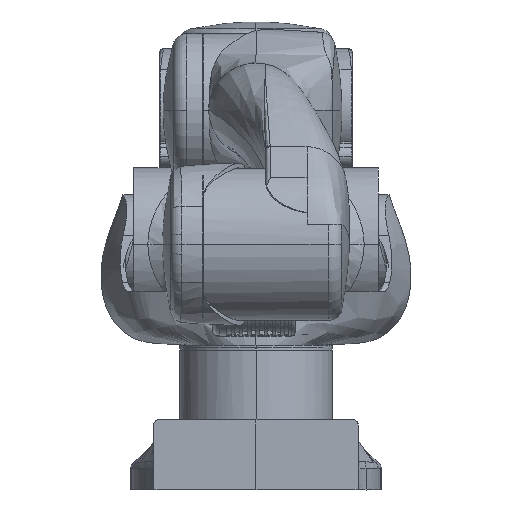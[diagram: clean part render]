
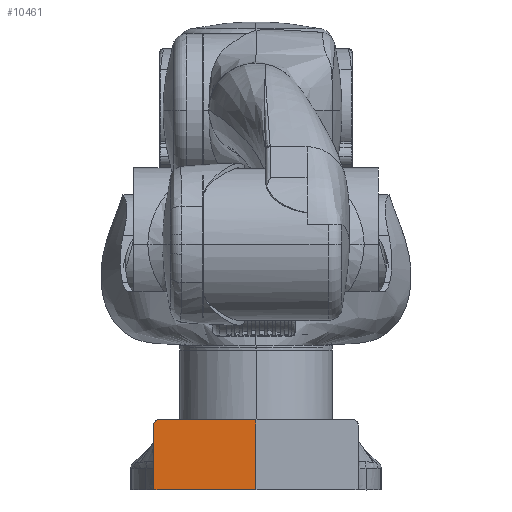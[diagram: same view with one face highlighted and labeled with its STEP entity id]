
A CAD part, left-side view. The second image highlights one B-rep face of the part: STEP entity #10461.
In plain terms, the highlighted free-form (B-spline) face has degree [1, 1] with [3, 4] control points.
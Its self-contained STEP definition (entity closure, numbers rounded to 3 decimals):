
#287 = CARTESIAN_POINT ( 'NONE',  ( -55., 41.794, 29.787 ) ) ;
#7685 = B_SPLINE_CURVE_WITH_KNOTS ( 'NONE', 1,
 ( #117737, #33062 ),
 .UNSPECIFIED., .F., .F.,
 ( 2, 2 ),
 ( 0., 1. ),
 .UNSPECIFIED. ) ;
#8835 = CARTESIAN_POINT ( 'NONE',  ( -55., 41.551, 28.001 ) ) ;
#10461 = ADVANCED_FACE ( 'NONE', ( #108372 ), #18112, .T. ) ;
#13813 = CARTESIAN_POINT ( 'NONE',  ( -55., 41.551, 0. ) ) ;
#18112 = B_SPLINE_SURFACE_WITH_KNOTS ( 'NONE', 1, 1, ( 
 ( #162037, #33234, #139497, #137678 ),
 ( #50308, #200763, #8835, #30497 ),
 ( #180947, #52146, #202592, #73768 ) ),
 .UNSPECIFIED., .F., .F., .F.,
 ( 2, 1, 2 ),
 ( 2, 1, 1, 2 ),
 ( -0.065, 0.006, 1. ),
 ( -0.052, -0.042, 0.006, 1. ),
 .UNSPECIFIED. ) ;
#21948 = CARTESIAN_POINT ( 'NONE',  ( -55., 41.54, 29.877 ) ) ;
#22526 = B_SPLINE_CURVE_WITH_KNOTS ( 'NONE', 3,
 ( #216592, #238248, #149816, #21948, #129143, #287, #150742, #109386, #172396, #259914, #108458, #194038, #130988, #130071, #131917, #90519, #157251, #28439, #24746, #68024, #154479, #242902 ),
 .UNSPECIFIED., .F., .F.,
 ( 4, 1, 1, 1, 1, 2, 2, 2, 1, 1, 1, 1, 2, 2, 4 ),
 ( 0., 0.125, 0.188, 0.219, 0.234, 0.242, 0.25, 0.5, 0.625, 0.688, 0.719, 0.734, 0.742, 0.75, 1. ),
 .UNSPECIFIED. ) ;
#23745 = CARTESIAN_POINT ( 'NONE',  ( -55., 0., 28. ) ) ;
#24746 = CARTESIAN_POINT ( 'NONE',  ( -55., 43.314, 28.253 ) ) ;
#28439 = CARTESIAN_POINT ( 'NONE',  ( -55., 43.31, 28.263 ) ) ;
#29301 = B_SPLINE_CURVE_WITH_KNOTS ( 'NONE', 1,
 ( #216287, #238885 ),
 .UNSPECIFIED., .F., .F.,
 ( 2, 2 ),
 ( 0., 1. ),
 .UNSPECIFIED. ) ;
#30334 = CARTESIAN_POINT ( 'NONE',  ( -55., 43.551, 0. ) ) ;
#30497 = CARTESIAN_POINT ( 'NONE',  ( -55., 0., 28.001 ) ) ;
#33062 = CARTESIAN_POINT ( 'NONE',  ( -55., 0., 30. ) ) ;
#33234 = CARTESIAN_POINT ( 'NONE',  ( -55., 43.551, 30. ) ) ;
#40651 = ORIENTED_EDGE ( 'NONE', *, *, #275492, .T. ) ;
#45635 = EDGE_CURVE ( 'NONE', #271774, #196446, #7685, .T. ) ;
#46808 = CARTESIAN_POINT ( 'NONE',  ( -55., 43.551, 0. ) ) ;
#48117 = CARTESIAN_POINT ( 'NONE',  ( -55., 0., 28. ) ) ;
#50308 = CARTESIAN_POINT ( 'NONE',  ( -55., 43.987, 28.001 ) ) ;
#52146 = CARTESIAN_POINT ( 'NONE',  ( -55., 43.551, 0. ) ) ;
#53899 = EDGE_CURVE ( 'NONE', #178200, #59395, #195576, .T. ) ;
#58237 = B_SPLINE_CURVE_WITH_KNOTS ( 'NONE', 1,
 ( #187126, #188996, #234106 ),
 .UNSPECIFIED., .F., .F.,
 ( 2, 1, 2 ),
 ( 0., 0., 1. ),
 .UNSPECIFIED. ) ;
#59395 = VERTEX_POINT ( 'NONE', #46808 ) ;
#68024 = CARTESIAN_POINT ( 'NONE',  ( -55., 43.472, 27.868 ) ) ;
#73768 = CARTESIAN_POINT ( 'NONE',  ( -55., 0., 0. ) ) ;
#76597 = CARTESIAN_POINT ( 'NONE',  ( -55., 40.551, 30. ) ) ;
#78569 = ORIENTED_EDGE ( 'NONE', *, *, #45635, .F. ) ;
#78926 = VERTEX_POINT ( 'NONE', #23745 ) ;
#82670 = CARTESIAN_POINT ( 'NONE',  ( -55., 0., 0. ) ) ;
#90126 = EDGE_CURVE ( 'NONE', #271774, #178200, #22526, .T. ) ;
#90519 = CARTESIAN_POINT ( 'NONE',  ( -55., 43.288, 28.315 ) ) ;
#95895 = B_SPLINE_CURVE_WITH_KNOTS ( 'NONE', 1,
 ( #126576, #124719 ),
 .UNSPECIFIED., .F., .F.,
 ( 2, 2 ),
 ( 0., 1. ),
 .UNSPECIFIED. ) ;
#103672 = EDGE_CURVE ( 'NONE', #153083, #160669, #29301, .T. ) ;
#108372 = FACE_OUTER_BOUND ( 'NONE', #233570, .T. ) ;
#108458 = CARTESIAN_POINT ( 'NONE',  ( -55., 42.485, 29.402 ) ) ;
#109386 = CARTESIAN_POINT ( 'NONE',  ( -55., 41.851, 29.762 ) ) ;
#116059 = ORIENTED_EDGE ( 'NONE', *, *, #53899, .T. ) ;
#117737 = CARTESIAN_POINT ( 'NONE',  ( -55., 40.551, 30. ) ) ;
#124719 = CARTESIAN_POINT ( 'NONE',  ( -55., 43.551, 0. ) ) ;
#126576 = CARTESIAN_POINT ( 'NONE',  ( -55., 41.551, 0. ) ) ;
#129143 = CARTESIAN_POINT ( 'NONE',  ( -55., 41.711, 29.819 ) ) ;
#130071 = CARTESIAN_POINT ( 'NONE',  ( -55., 43.186, 28.527 ) ) ;
#130988 = CARTESIAN_POINT ( 'NONE',  ( -55., 43.028, 28.796 ) ) ;
#131917 = CARTESIAN_POINT ( 'NONE',  ( -55., 43.255, 28.386 ) ) ;
#137678 = CARTESIAN_POINT ( 'NONE',  ( -55., 0., 30. ) ) ;
#139497 = CARTESIAN_POINT ( 'NONE',  ( -55., 41.551, 30. ) ) ;
#149816 = CARTESIAN_POINT ( 'NONE',  ( -55., 41.171, 29.967 ) ) ;
#150742 = CARTESIAN_POINT ( 'NONE',  ( -55., 41.828, 29.772 ) ) ;
#153083 = VERTEX_POINT ( 'NONE', #13813 ) ;
#154479 = CARTESIAN_POINT ( 'NONE',  ( -55., 43.549, 27.417 ) ) ;
#157251 = CARTESIAN_POINT ( 'NONE',  ( -55., 43.301, 28.283 ) ) ;
#159138 = CARTESIAN_POINT ( 'NONE',  ( -55., 43.551, 26.888 ) ) ;
#160669 = VERTEX_POINT ( 'NONE', #82670 ) ;
#162037 = CARTESIAN_POINT ( 'NONE',  ( -55., 43.987, 30. ) ) ;
#172396 = CARTESIAN_POINT ( 'NONE',  ( -55., 41.864, 29.757 ) ) ;
#178200 = VERTEX_POINT ( 'NONE', #217680 ) ;
#180947 = CARTESIAN_POINT ( 'NONE',  ( -55., 43.987, 0. ) ) ;
#187126 = CARTESIAN_POINT ( 'NONE',  ( -55., 0., 28. ) ) ;
#187410 = CARTESIAN_POINT ( 'NONE',  ( -55., 0., 30. ) ) ;
#187935 = ORIENTED_EDGE ( 'NONE', *, *, #208824, .F. ) ;
#188996 = CARTESIAN_POINT ( 'NONE',  ( -55., 0., 28.001 ) ) ;
#192721 = ORIENTED_EDGE ( 'NONE', *, *, #103672, .T. ) ;
#194038 = CARTESIAN_POINT ( 'NONE',  ( -55., 42.861, 29.007 ) ) ;
#195576 = B_SPLINE_CURVE_WITH_KNOTS ( 'NONE', 1,
 ( #159138, #30334 ),
 .UNSPECIFIED., .F., .F.,
 ( 2, 2 ),
 ( 0., 1. ),
 .UNSPECIFIED. ) ;
#196446 = VERTEX_POINT ( 'NONE', #187410 ) ;
#200763 = CARTESIAN_POINT ( 'NONE',  ( -55., 43.551, 28.001 ) ) ;
#202592 = CARTESIAN_POINT ( 'NONE',  ( -55., 41.551, 0. ) ) ;
#208824 = EDGE_CURVE ( 'NONE', #153083, #59395, #95895, .T. ) ;
#216287 = CARTESIAN_POINT ( 'NONE',  ( -55., 41.551, 0. ) ) ;
#216592 = CARTESIAN_POINT ( 'NONE',  ( -55., 40.551, 30. ) ) ;
#217680 = CARTESIAN_POINT ( 'NONE',  ( -55., 43.551, 26.888 ) ) ;
#230024 = B_SPLINE_CURVE_WITH_KNOTS ( 'NONE', 1,
 ( #242782, #48117 ),
 .UNSPECIFIED., .F., .F.,
 ( 2, 2 ),
 ( 0., 1. ),
 .UNSPECIFIED. ) ;
#233570 = EDGE_LOOP ( 'NONE', ( #116059, #187935, #192721, #278255, #40651, #78569, #268102 ) ) ;
#234106 = CARTESIAN_POINT ( 'NONE',  ( -55., 0., 30. ) ) ;
#238248 = CARTESIAN_POINT ( 'NONE',  ( -55., 40.811, 29.998 ) ) ;
#238885 = CARTESIAN_POINT ( 'NONE',  ( -55., 0., 0. ) ) ;
#242782 = CARTESIAN_POINT ( 'NONE',  ( -55., 0., 0. ) ) ;
#242902 = CARTESIAN_POINT ( 'NONE',  ( -55., 43.551, 26.888 ) ) ;
#251043 = EDGE_CURVE ( 'NONE', #160669, #78926, #230024, .T. ) ;
#259914 = CARTESIAN_POINT ( 'NONE',  ( -55., 42.196, 29.607 ) ) ;
#268102 = ORIENTED_EDGE ( 'NONE', *, *, #90126, .T. ) ;
#271774 = VERTEX_POINT ( 'NONE', #76597 ) ;
#275492 = EDGE_CURVE ( 'NONE', #78926, #196446, #58237, .T. ) ;
#278255 = ORIENTED_EDGE ( 'NONE', *, *, #251043, .T. ) ;
